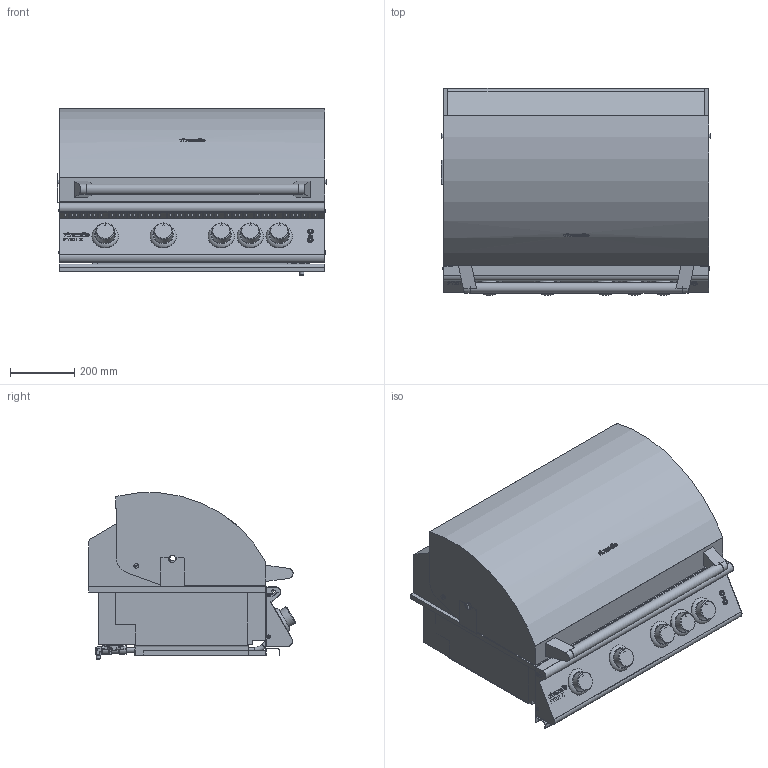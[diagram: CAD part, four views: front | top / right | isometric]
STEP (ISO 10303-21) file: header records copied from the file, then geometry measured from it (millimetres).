
FILE_DESCRIPTION(/* description */ ('fyre X 4 Burner BBQ'),/* implementation_level */ '2;1');
FILE_NAME(/* name */ 'GX1-4BI.0_MOCKUP.step',/* time_stamp */ '2026-03-11T16:17:49+01:00',/* author */ (''),/* organization */ (''),/* preprocessor_version */ 'ST-DEVELOPER v20.1',/* originating_system */ 'Autodesk Translation Framework v14.24.0.0',/* authorisation */ '');
FILE_SCHEMA (('AUTOMOTIVE_DESIGN { 1 0 10303 214 3 1 1 }'));
Products named in the file (8): GX1-4BI.0_MOCKUP; GX1-B; GX1-GR; GX1-TW; GX1-F; GX1-R; GX1-L; GX1-GS
Assembly tree (10 placements, depth 3):
  GX1-4BI.0_MOCKUP
    GX1-B
      GX1-GR  x4
    GX1-TW
    GX1-F
    GX1-R
    GX1-L
    GX1-GS
Bounding box: 835.5 x 642.44 x 516.92 mm (x, y, z)
Volume: 42036442.4 mm3; surface area: 6213699.5 mm2
Topology: 92 solids, 92 shells, 2517 faces, 6489 edges, 4254 vertices
Faces by surface type: plane 2100, cylinder 325, torus 37, cone 26, bspline 25, sphere 4
Full cylindrical faces by diameter (mm): 3.8 x2, 4 x4, 5 x4, 6 x4, 7 x8, 9 x6, 11 x2, 11.5 x4, 13 x3, 13.2 x1, 14 x2, 15.172 x1, 16 x3, 18 x2, 20 x1, 32 x1, 58 x5, 60 x5, 82 x5
Entity records: 64195 total; most frequent: CARTESIAN_POINT 14209, ORIENTED_EDGE 10454, DIRECTION 9595, EDGE_CURVE 5227, LINE 4143, VECTOR 4143, VERTEX_POINT 3534, AXIS2_PLACEMENT_3D 2726
